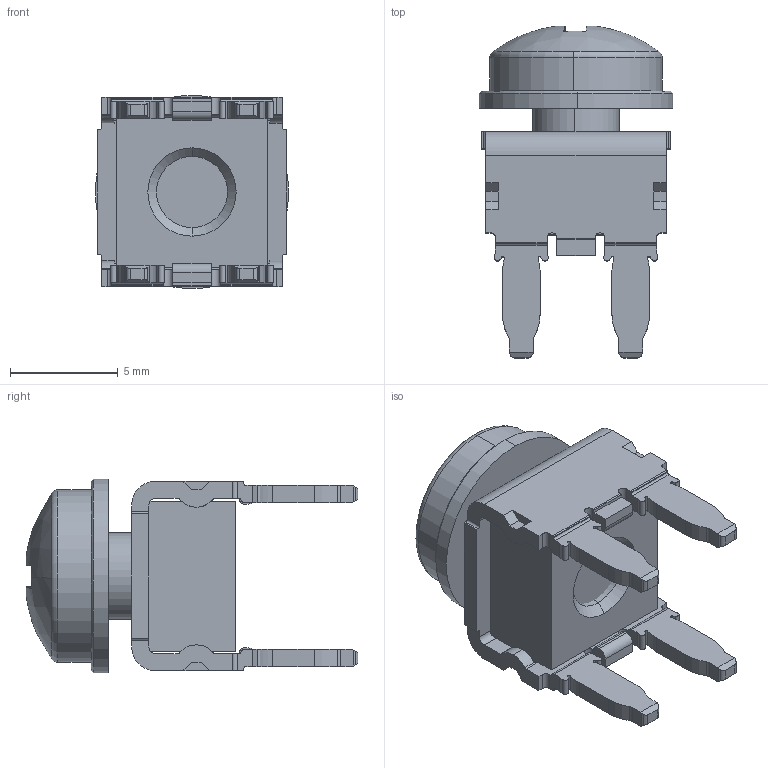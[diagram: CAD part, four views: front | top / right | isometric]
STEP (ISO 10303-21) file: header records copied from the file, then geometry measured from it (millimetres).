
FILE_DESCRIPTION (( 'STEP AP214' ), '1' );
FILE_NAME ('910-60045.STEP', '2013-12-16T12:45:32', ( 'Install' ), ( '' ), 'SwSTEP 2.0', 'SolidWorks 2012', '' );
FILE_SCHEMA (( 'AUTOMOTIVE_DESIGN' ));
Length unit declared in the file: millimetre
Products named in the file (1): 910-60045
Bounding box: 9 x 15.41 x 9 mm (x, y, z)
Volume: 519 mm3; surface area: 1034.9 mm2
Topology: 4 solids, 4 shells, 294 faces, 840 edges, 553 vertices
Faces by surface type: plane 150, cylinder 126, cone 12, torus 4, sphere 2
Entity records: 12959 total; most frequent: CARTESIAN_POINT 1830, ORIENTED_EDGE 1676, DIRECTION 1654, EDGE_CURVE 838, AXIS2_PLACEMENT_3D 561, VERTEX_POINT 553, LINE 532, VECTOR 532
